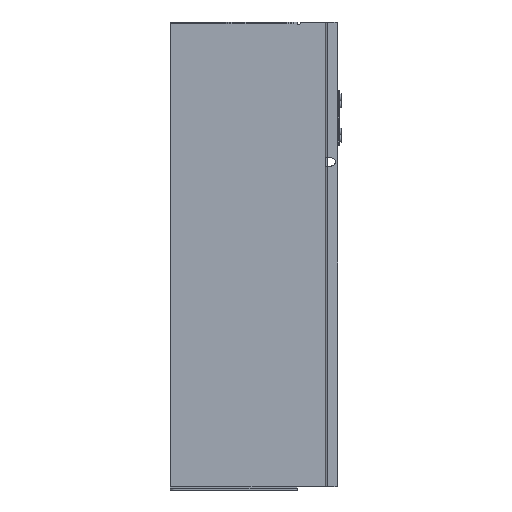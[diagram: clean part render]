
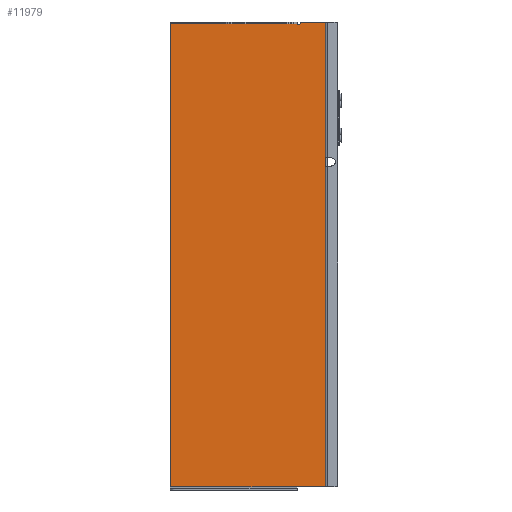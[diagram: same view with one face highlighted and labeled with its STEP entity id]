
A CAD part, left-side view. The second image highlights one B-rep face of the part: STEP entity #11979.
In plain terms, the highlighted planar face has unit normal (-1, 0, 0).
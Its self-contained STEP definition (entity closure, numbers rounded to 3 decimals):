
#13 = EDGE_CURVE ( 'NONE', #15580, #16095, #5049, .T. ) ;
#78 = DIRECTION ( 'NONE',  ( 1., 0., 0. ) ) ;
#334 = CARTESIAN_POINT ( 'NONE',  ( 0., 0., 170. ) ) ;
#373 = DIRECTION ( 'NONE',  ( 0., 1., 0. ) ) ;
#436 = VERTEX_POINT ( 'NONE', #6040 ) ;
#672 = LINE ( 'NONE', #13232, #13866 ) ;
#778 = EDGE_CURVE ( 'NONE', #436, #15594, #13214, .T. ) ;
#938 = ORIENTED_EDGE ( 'NONE', *, *, #14268, .F. ) ;
#974 = DIRECTION ( 'NONE',  ( 0., 0., -1. ) ) ;
#1018 = ORIENTED_EDGE ( 'NONE', *, *, #8701, .F. ) ;
#1338 = CARTESIAN_POINT ( 'NONE',  ( 0., 20.5, 168.5 ) ) ;
#1630 = VECTOR ( 'NONE', #373, 1000. ) ;
#1659 = CIRCLE ( 'NONE', #16006, 0.2 ) ;
#1781 = CARTESIAN_POINT ( 'NONE',  ( 0., 18.5, 168.7 ) ) ;
#1836 = EDGE_CURVE ( 'NONE', #15580, #5696, #13008, .T. ) ;
#1876 = CARTESIAN_POINT ( 'NONE',  ( 0., 0., 170. ) ) ;
#1915 = CIRCLE ( 'NONE', #5925, 0.2 ) ;
#2028 = VECTOR ( 'NONE', #12670, 1000. ) ;
#2131 = ORIENTED_EDGE ( 'NONE', *, *, #8811, .T. ) ;
#2268 = LINE ( 'NONE', #8436, #8663 ) ;
#2443 = CARTESIAN_POINT ( 'NONE',  ( 0., 20.5, -169. ) ) ;
#2809 = EDGE_CURVE ( 'NONE', #12289, #5696, #11080, .T. ) ;
#2818 = CARTESIAN_POINT ( 'NONE',  ( 0., 20.5, 168.8 ) ) ;
#2897 = CARTESIAN_POINT ( 'NONE',  ( 0., 0., -169. ) ) ;
#2917 = DIRECTION ( 'NONE',  ( -1., 0., 0. ) ) ;
#2951 = ORIENTED_EDGE ( 'NONE', *, *, #8004, .T. ) ;
#3036 = DIRECTION ( 'NONE',  ( 0., -1., 0. ) ) ;
#3109 = VERTEX_POINT ( 'NONE', #14962 ) ;
#3479 = CARTESIAN_POINT ( 'NONE',  ( 0., 113., -169. ) ) ;
#3899 = ORIENTED_EDGE ( 'NONE', *, *, #13, .T. ) ;
#4476 = EDGE_CURVE ( 'NONE', #5327, #9276, #5468, .T. ) ;
#4579 = EDGE_LOOP ( 'NONE', ( #2131, #1018, #15206, #2951, #10137, #6399, #938, #12510, #13401, #9727, #3899 ) ) ;
#4612 = CARTESIAN_POINT ( 'NONE',  ( 0., 0., 170. ) ) ;
#4956 = FACE_OUTER_BOUND ( 'NONE', #4579, .T. ) ;
#5049 = LINE ( 'NONE', #1338, #1630 ) ;
#5293 = CARTESIAN_POINT ( 'NONE',  ( 0., 18.7, 168.5 ) ) ;
#5327 = VERTEX_POINT ( 'NONE', #3479 ) ;
#5370 = DIRECTION ( 'NONE',  ( 1., 0., 0. ) ) ;
#5468 = LINE ( 'NONE', #2443, #2028 ) ;
#5661 = DIRECTION ( 'NONE',  ( 0., 0., -1. ) ) ;
#5696 = VERTEX_POINT ( 'NONE', #1781 ) ;
#5847 = CARTESIAN_POINT ( 'NONE',  ( 0., 0., 168.8 ) ) ;
#5925 = AXIS2_PLACEMENT_3D ( 'NONE', #7779, #78, #9033 ) ;
#6040 = CARTESIAN_POINT ( 'NONE',  ( 0., 113., 168.8 ) ) ;
#6399 = ORIENTED_EDGE ( 'NONE', *, *, #14641, .T. ) ;
#7379 = LINE ( 'NONE', #1876, #13753 ) ;
#7389 = CARTESIAN_POINT ( 'NONE',  ( 0., 18.5, 169.8 ) ) ;
#7512 = DIRECTION ( 'NONE',  ( -1., 0., 0. ) ) ;
#7779 = CARTESIAN_POINT ( 'NONE',  ( 0., 18.3, 169.8 ) ) ;
#7969 = CARTESIAN_POINT ( 'NONE',  ( 0., 18.5, 170. ) ) ;
#8004 = EDGE_CURVE ( 'NONE', #436, #5327, #672, .T. ) ;
#8265 = DIRECTION ( 'NONE',  ( 0., 0., 1. ) ) ;
#8436 = CARTESIAN_POINT ( 'NONE',  ( 0., 0., 170. ) ) ;
#8663 = VECTOR ( 'NONE', #9714, 1000. ) ;
#8701 = EDGE_CURVE ( 'NONE', #15594, #3109, #16041, .T. ) ;
#8811 = EDGE_CURVE ( 'NONE', #16095, #3109, #1659, .T. ) ;
#9015 = CARTESIAN_POINT ( 'NONE',  ( 0., 18.3, 170. ) ) ;
#9033 = DIRECTION ( 'NONE',  ( 0., 0., -1. ) ) ;
#9226 = DIRECTION ( 'NONE',  ( 0., 0., -1. ) ) ;
#9276 = VERTEX_POINT ( 'NONE', #2897 ) ;
#9371 = CARTESIAN_POINT ( 'NONE',  ( 0., 20.3, 168.5 ) ) ;
#9714 = DIRECTION ( 'NONE',  ( 0., -1., 0. ) ) ;
#9727 = ORIENTED_EDGE ( 'NONE', *, *, #1836, .F. ) ;
#10137 = ORIENTED_EDGE ( 'NONE', *, *, #4476, .T. ) ;
#10587 = PLANE ( 'NONE',  #11696 ) ;
#10690 = VECTOR ( 'NONE', #9226, 1000. ) ;
#11080 = LINE ( 'NONE', #7969, #10690 ) ;
#11696 = AXIS2_PLACEMENT_3D ( 'NONE', #334, #2917, #11865 ) ;
#11719 = AXIS2_PLACEMENT_3D ( 'NONE', #15146, #7512, #16417 ) ;
#11865 = DIRECTION ( 'NONE',  ( 0., 0., -1. ) ) ;
#11979 = ADVANCED_FACE ( 'NONE', ( #4956 ), #10587, .T. ) ;
#12289 = VERTEX_POINT ( 'NONE', #7389 ) ;
#12461 = EDGE_CURVE ( 'NONE', #12289, #16479, #1915, .T. ) ;
#12510 = ORIENTED_EDGE ( 'NONE', *, *, #12461, .F. ) ;
#12666 = VECTOR ( 'NONE', #974, 1000. ) ;
#12670 = DIRECTION ( 'NONE',  ( 0., -1., 0. ) ) ;
#13008 = CIRCLE ( 'NONE', #11719, 0.2 ) ;
#13018 = CARTESIAN_POINT ( 'NONE',  ( 0., 20.3, 168.7 ) ) ;
#13214 = LINE ( 'NONE', #5847, #16188 ) ;
#13232 = CARTESIAN_POINT ( 'NONE',  ( 0., 113., 170. ) ) ;
#13401 = ORIENTED_EDGE ( 'NONE', *, *, #2809, .T. ) ;
#13696 = VERTEX_POINT ( 'NONE', #4612 ) ;
#13721 = CARTESIAN_POINT ( 'NONE',  ( 0., 20.5, 168.8 ) ) ;
#13753 = VECTOR ( 'NONE', #8265, 1000. ) ;
#13866 = VECTOR ( 'NONE', #5661, 1000. ) ;
#14268 = EDGE_CURVE ( 'NONE', #16479, #13696, #2268, .T. ) ;
#14280 = DIRECTION ( 'NONE',  ( 0., 0., -1. ) ) ;
#14641 = EDGE_CURVE ( 'NONE', #9276, #13696, #7379, .T. ) ;
#14962 = CARTESIAN_POINT ( 'NONE',  ( 0., 20.5, 168.7 ) ) ;
#15146 = CARTESIAN_POINT ( 'NONE',  ( 0., 18.7, 168.7 ) ) ;
#15206 = ORIENTED_EDGE ( 'NONE', *, *, #778, .F. ) ;
#15580 = VERTEX_POINT ( 'NONE', #5293 ) ;
#15594 = VERTEX_POINT ( 'NONE', #2818 ) ;
#16006 = AXIS2_PLACEMENT_3D ( 'NONE', #13018, #5370, #14280 ) ;
#16041 = LINE ( 'NONE', #13721, #12666 ) ;
#16095 = VERTEX_POINT ( 'NONE', #9371 ) ;
#16188 = VECTOR ( 'NONE', #3036, 1000. ) ;
#16417 = DIRECTION ( 'NONE',  ( 0., 0., -1. ) ) ;
#16479 = VERTEX_POINT ( 'NONE', #9015 ) ;
